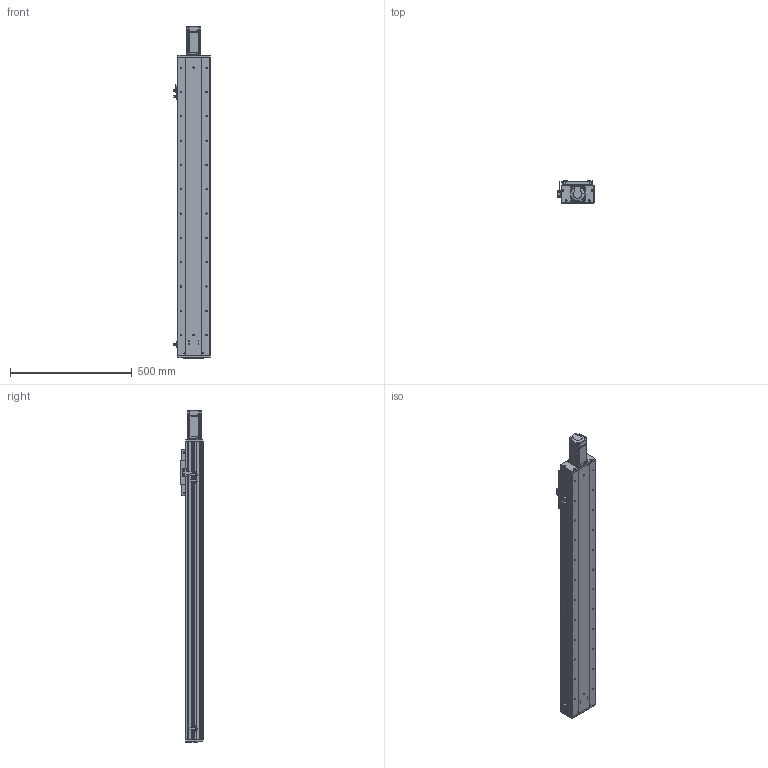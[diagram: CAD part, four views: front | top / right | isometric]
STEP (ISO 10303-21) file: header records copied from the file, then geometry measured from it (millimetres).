
FILE_DESCRIPTION (( 'STEP AP203' ), '1' );
FILE_NAME ('RY140F-L2020-300-MK.SLDASM_950.step', '2021-03-02T06:24:22', ( '盈信电脑' ), ( '东莞市道滘镇水果街19号' ), 'SwSTEP 2.0', 'SolidWorks 2012', '' );
FILE_SCHEMA (( 'CONFIG_CONTROL_DESIGN' ));
Length unit declared in the file: millimetre
Products named in the file (18): 滅袉蝶18-10; RY140F-L2020-300-MK.SLDASM_950; 侐源滅袉蝶; 侂狟400W侜督萇儂; RY140F-詩湍揤え; RY140F-672覜茼んえ; 覜茼ん672; RY140F-直连前盖板(铝件）; 15; RY140F-直连型材铝滑块(16丝杆); RY140F-后盖板(铝件）; RY140F-詩湍幗謫粣; RY140F-直连型材铝滑块连接座; RY140F-滅鳥奻裔; RY100F-詩湍揤踡謫; RY140F-300-MK眻蟀倰第奻裔啣_950; RY140F-300-MK眻蟀倰第菁釱_950; RY140F-300-MK眻蟀詩湍_950
Assembly tree (22 placements, depth 3):
  RY140F-L2020-300-MK.SLDASM_950
    RY140F-300-MK眻蟀倰第菁釱_950
    RY140F-300-MK眻蟀倰第奻裔啣_950  x2
    RY140F-300-MK眻蟀詩湍_950
    RY140F-直连型材铝滑块连接座
    RY140F-滅鳥奻裔
    RY140F-詩湍幗謫粣
    RY100F-詩湍揤踡謫
    RY140F-直连型材铝滑块(16丝杆)
    RY140F-直连前盖板(铝件）
    RY140F-后盖板(铝件）
    侂狟400W侜督萇儂
      15
    覜茼ん672  x3
    RY140F-672覜茼んえ
    RY140F-詩湍揤え  x2
    滅袉蝶18-10
    侐源滅袉蝶  x2
Bounding box: 148.7 x 91 x 1365.5 mm (x, y, z)
Volume: 4602308.2 mm3; surface area: 1599723.2 mm2
Topology: 21 solids, 21 shells, 2000 faces, 5497 edges, 3512 vertices
Faces by surface type: cylinder 918, plane 854, cone 206, bspline 18, torus 4
Entity records: 57958 total; most frequent: CARTESIAN_POINT 11581, DIRECTION 9488, ORIENTED_EDGE 9086, EDGE_CURVE 4543, AXIS2_PLACEMENT_3D 3407, VERTEX_POINT 2980, LINE 2674, VECTOR 2674
